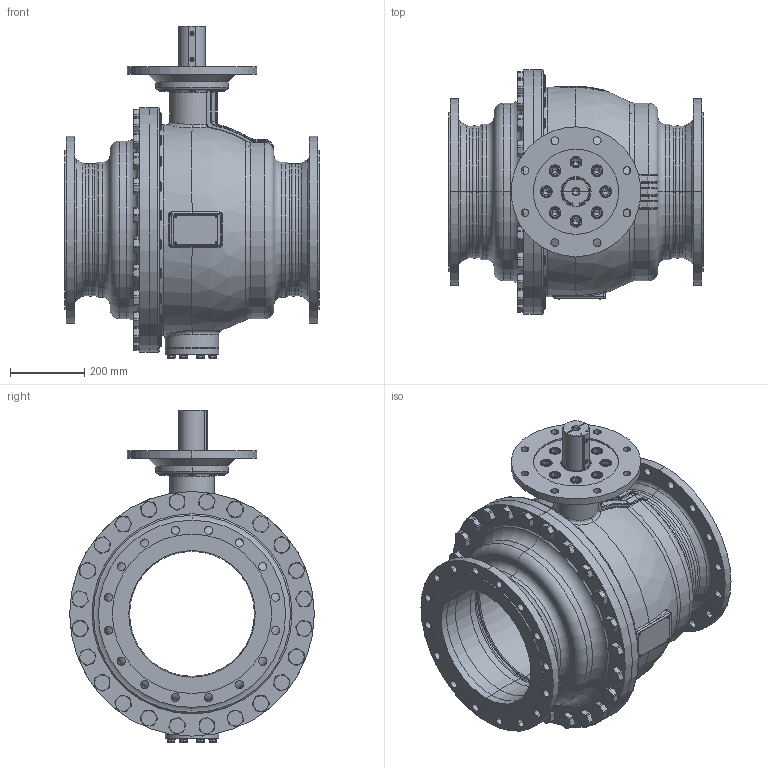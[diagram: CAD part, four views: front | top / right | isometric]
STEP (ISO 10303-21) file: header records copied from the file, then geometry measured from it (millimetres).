
FILE_DESCRIPTION((''),'2;1');
FILE_NAME('KHI-F_350_PN010-F30-P_SW0001','2026-02-05T15:50:20',('fischerkl'),('KLINGER'),'CREO PARAMETRIC BY PTC INC, 2023014','CREO PARAMETRIC BY PTC INC, 2023014','');
FILE_SCHEMA(('CONFIG_CONTROL_DESIGN'));
Products named in the file (1): KHI-F_350_PN010-F30-P_SW0001
Bounding box: 686 x 660 x 895.8 mm (x, y, z)
Volume: 42087970.3 mm3; surface area: 5855823.7 mm2
Topology: 1 solids, 4 shells, 3414 faces, 8622 edges, 5384 vertices
Faces by surface type: plane 1743, cylinder 799, cone 448, torus 295, bspline 99, sphere 30
Entity records: 144149 total; most frequent: CARTESIAN_POINT 62725, ORIENTED_EDGE 17192, DIRECTION 16862, EDGE_CURVE 8596, AXIS2_PLACEMENT_3D 6429, VERTEX_POINT 5384, VECTOR 4004, LINE 4004
